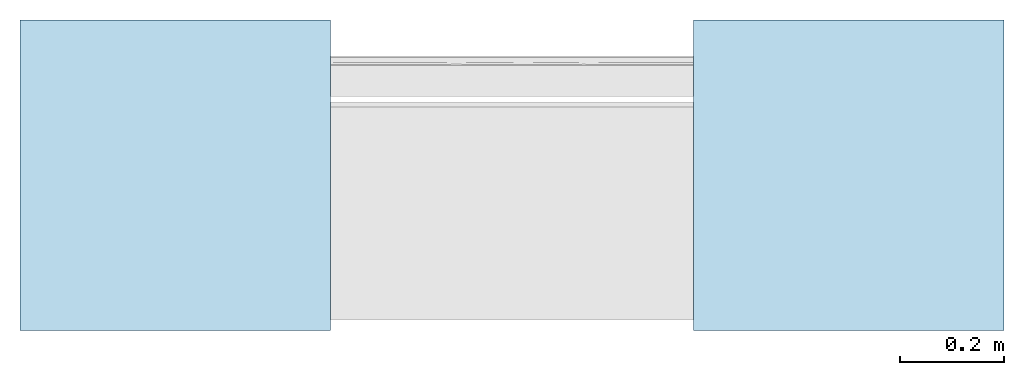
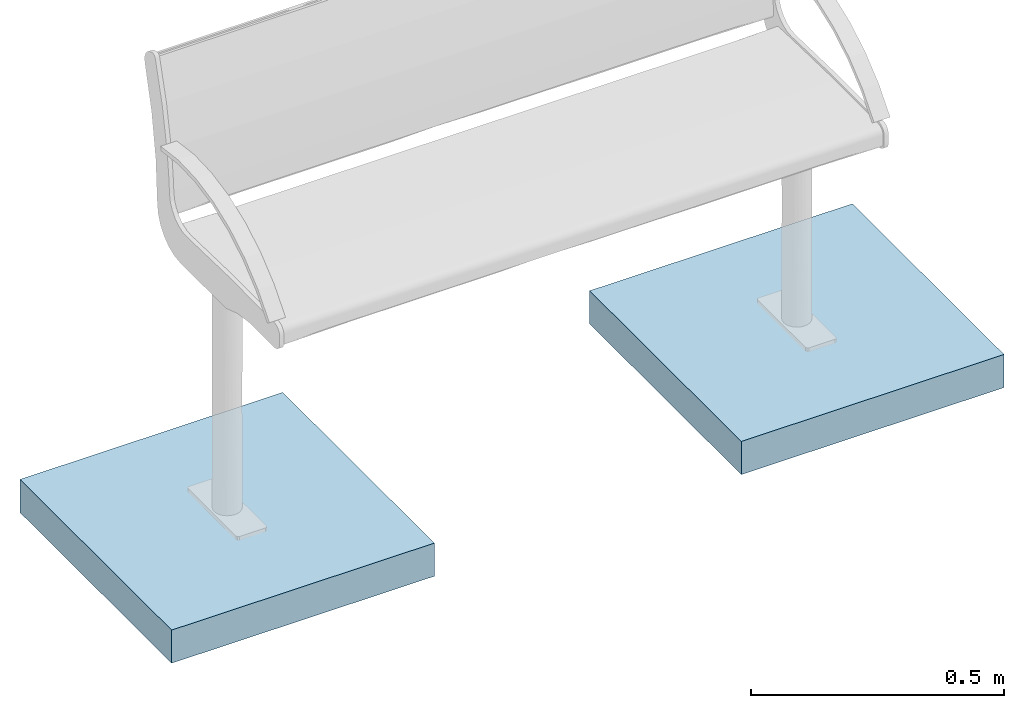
# One storey, incomplete: 2 slabs.
"""IFC4 building model written with IfcOpenShell, lengths in metres."""

from ifc_helpers import new_model, entity, si_unit, converted_unit, direction, frame, frame_2d, origin, place, context, subcontext, project, spatial, rectangle, extrude, material, type_object, element, save


model = new_model("IFC4")

# Units and contexts
model_context = context("Model", 3, precision=1e-05, world=origin(), true_north=direction((6.123031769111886e-17, 1.0)))
body_context = subcontext(model_context, "Body", "Model", "MODEL_VIEW")
ifc_project = project(units=[si_unit("LENGTHUNIT", "METRE"), converted_unit("PLANEANGLEUNIT", "DEGREE", entity("IfcPlaneAngleMeasure", 0.017453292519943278), si_unit("PLANEANGLEUNIT", "RADIAN"), dimensions=[0, 0, 0, 0, 0, 0, 0]), si_unit("AREAUNIT", "SQUARE_METRE")], contexts=[model_context])

# Site, building, storey
site_placement = place(None, origin())
site = spatial("IfcSite", under=ifc_project, at=site_placement, Name="Default", CompositionType="ELEMENT")
building_placement = place(site_placement, origin())
building = spatial("IfcBuilding", under=site, at=building_placement, CompositionType="ELEMENT")
storey_placement = place(building_placement, origin())
storey = spatial("IfcBuildingStorey", under=building, at=storey_placement, Name="DB_Bezugshoehe_max_Bahnsteigkante", CompositionType="ELEMENT", Elevation=0.0)

# Slabs
ifc_material = material(Name="DB_Fertigbeton", Category="DB_Beton")
slab_type = type_object("IfcSlabType", Name="DB_Sitzbank_Fundament:DB_Sitzbank_Fundament", PredefinedType="BASESLAB", material=ifc_material)
slab_1_placement = place(storey_placement, origin())
element("IfcSlab", 1, at=slab_1_placement, inside=storey, type_object=slab_type, Name="DB_Sitzbank_Fundament:DB_Sitzbank_Fundament", ObjectType="DB_Sitzbank_Fundament:DB_Sitzbank_Fundament", PredefinedType="BASESLAB", context=body_context, shape_type="SweptSolid", body=[
    extrude(rectangle(XDim=0.5999999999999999, YDim=0.5999999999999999, at=frame_2d((0.0, 8.326672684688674e-17), x_axis=(1.0, 0.0))), frame((0.6505000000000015, 0.0, -0.24999999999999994), z_axis=(0.0, 0.0, 1.0), x_axis=(0.0, 1.0, 0.0)), (0.0, 0.0, 1.0), 0.08000000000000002),
])
slab_2_placement = place(storey_placement, origin())
element("IfcSlab", 2, at=slab_2_placement, inside=storey, type_object=slab_type, Name="DB_Sitzbank_Fundament:DB_Sitzbank_Fundament", ObjectType="DB_Sitzbank_Fundament:DB_Sitzbank_Fundament", PredefinedType="BASESLAB", context=body_context, shape_type="SweptSolid", body=[
    extrude(rectangle(XDim=0.5999999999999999, YDim=0.5999999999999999, at=frame_2d((0.0, 8.326672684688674e-17), x_axis=(1.0, 0.0))), frame((-0.6505000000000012, 0.0, -0.25), z_axis=(0.0, 0.0, 1.0), x_axis=(0.0, 1.0, 0.0)), (0.0, 0.0, 1.0), 0.08000000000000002),
])

save(model, "model.ifc")
